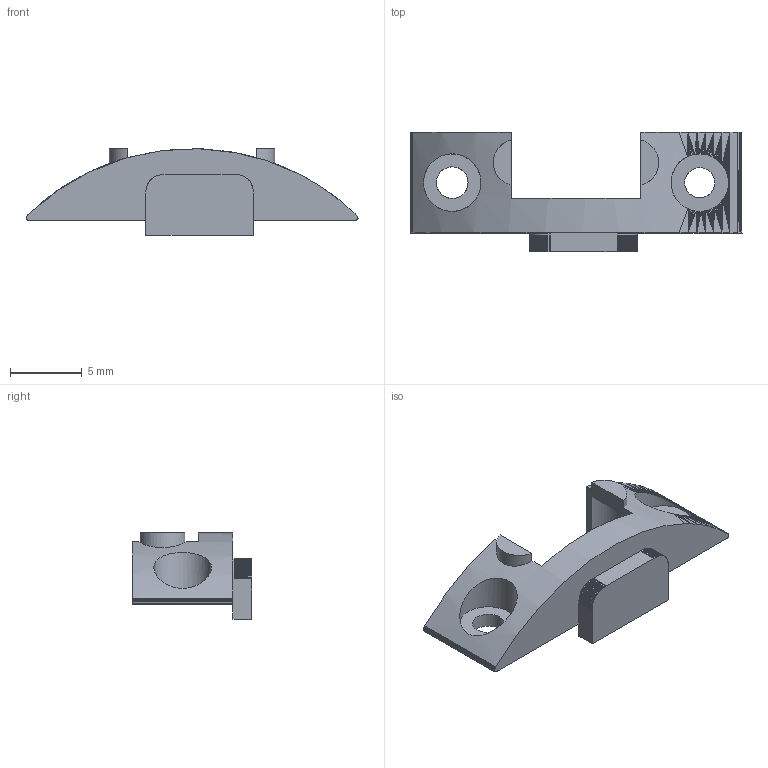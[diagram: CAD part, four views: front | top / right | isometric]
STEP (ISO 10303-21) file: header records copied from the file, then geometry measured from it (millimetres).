
FILE_DESCRIPTION(('Open CASCADE Model'),'2;1');
FILE_NAME('Open CASCADE Shape Model','2026-10-27T00:06:58',('Author'),( 'Open CASCADE'),'Open CASCADE STEP processor 7.9','Open CASCADE 7.9' ,'Unknown');
FILE_SCHEMA(('AUTOMOTIVE_DESIGN { 1 0 10303 214 1 1 1 1 }'));
Length unit declared in the file: millimetre
Products named in the file (1): Open CASCADE STEP translator 7.9 1
Bounding box: 23.09 x 8.3 x 6.04 mm (x, y, z)
Volume: 348.8 mm3; surface area: 559.1 mm2
Topology: 1 solids, 1 shells, 436 faces, 894 edges, 461 vertices
Faces by surface type: bspline 400, plane 25, cylinder 11
Full cylindrical faces by diameter (mm): 2.1 x1, 2.2 x1, 4 x2
Entity records: 31048 total; most frequent: CARTESIAN_POINT 18537, B_SPLINE_CURVE_WITH_KNOTS 2490, ORIENTED_EDGE 1788, PCURVE 1788, DEFINITIONAL_REPRESENTATION 1788, EDGE_CURVE 894, SURFACE_CURVE 890, VERTEX_POINT 461
